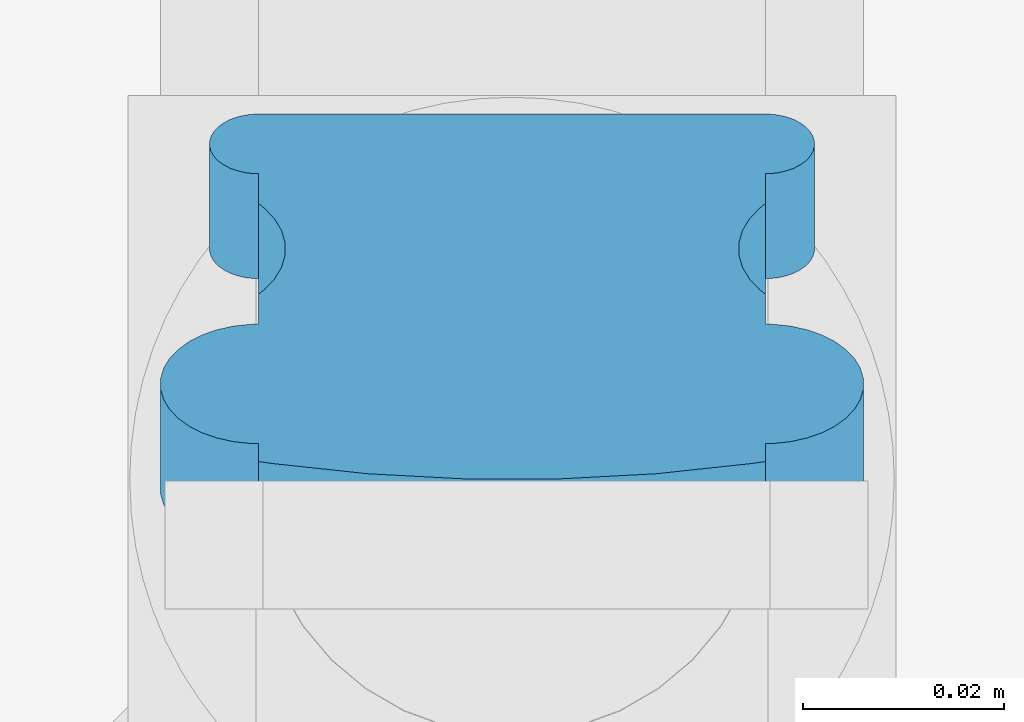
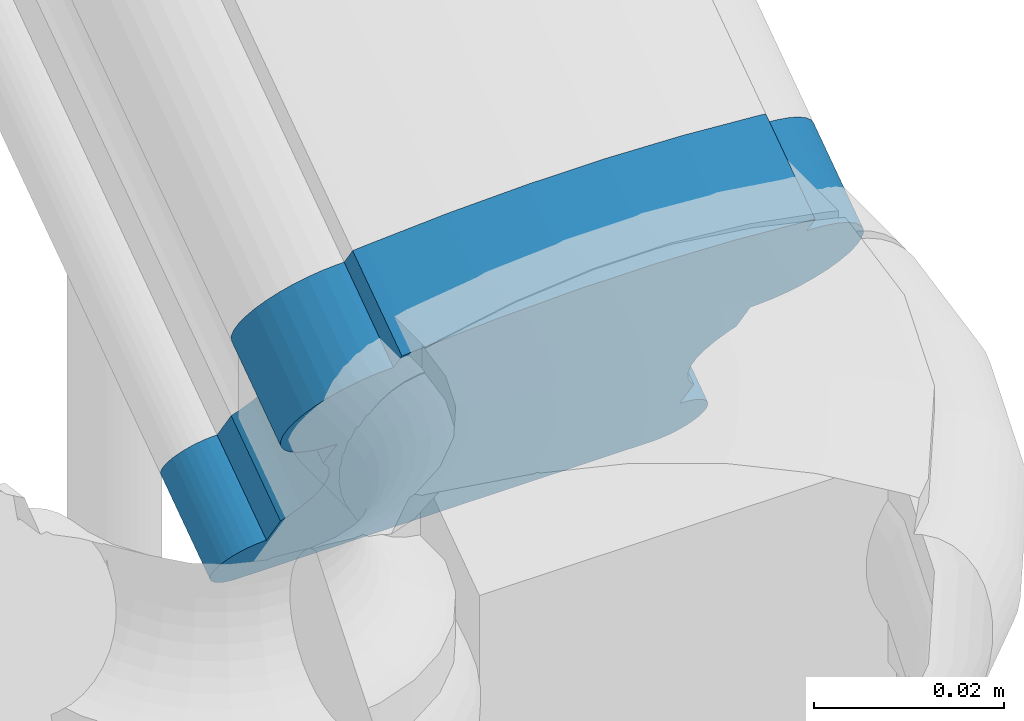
# One storey, part 20 of 77: 1 building element part, 1 element without a shape of its own.
"""IFC2X3 building model written with IfcOpenShell, lengths in inches."""

from ifc_helpers import new_model, entity, si_unit, converted_unit, derived_unit, money_unit, direction, frame, origin_with_axes, place, context, subcontext, project, spatial, faceted_brep, material, type_object, element, aggregate, save


model = new_model("IFC2X3")

# Units and contexts
model_context = context("Model", 3, precision=0.000393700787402, world=origin_with_axes(), true_north=direction((0.0, 1.0)))
body_context = subcontext(model_context, "Body", "Model", "MODEL_VIEW")
ifc_project = project(units=[converted_unit("LENGTHUNIT", "INCH", entity("IfcPositiveLengthMeasure", 0.0254), si_unit("LENGTHUNIT", "METRE"), dimensions=[1, 0, 0, 0, 0, 0, 0]), converted_unit("AREAUNIT", "SQUARE_FOOT", entity("IfcPositiveLengthMeasure", 0.09290304), si_unit("AREAUNIT", "SQUARE_METRE"), dimensions=[2, 0, 0, 0, 0, 0, 0]), si_unit("PLANEANGLEUNIT", "RADIAN"), si_unit("SOLIDANGLEUNIT", "STERADIAN"), money_unit("USD"), converted_unit("TIMEUNIT", "Year", entity("IfcTimeMeasure", 31556926.0), si_unit("TIMEUNIT", "SECOND"), dimensions=[0, 0, 1, 0, 0, 0, 0]), si_unit("MASSUNIT", "GRAM", prefix="KILO"), si_unit("THERMODYNAMICTEMPERATUREUNIT", "DEGREE_CELSIUS"), si_unit("LUMINOUSINTENSITYUNIT", "LUMEN"), si_unit("ENERGYUNIT", "JOULE", prefix="MEGA"), derived_unit("THERMALCONDUCTANCEUNIT", [(si_unit("POWERUNIT", "WATT"), 1), (si_unit("LENGTHUNIT", "METRE"), -1), (si_unit("THERMODYNAMICTEMPERATUREUNIT", "KELVIN"), -1)]), derived_unit("SPECIFICHEATCAPACITYUNIT", [(si_unit("ENERGYUNIT", "JOULE"), 1), (si_unit("MASSUNIT", "GRAM", prefix="KILO"), -1), (si_unit("THERMODYNAMICTEMPERATUREUNIT", "KELVIN"), -1)]), derived_unit("MASSDENSITYUNIT", [(si_unit("MASSUNIT", "GRAM", prefix="KILO"), 1), (si_unit("VOLUMEUNIT", "CUBIC_METRE"), -1)])], contexts=[model_context])

# Site, building, storey
site_placement = place(None, origin_with_axes())
site = spatial("IfcSite", under=ifc_project, at=site_placement, Name="Site", CompositionType="ELEMENT")
building_placement = place(site_placement, origin_with_axes())
building = spatial("IfcBuilding", under=site, at=building_placement, Name="Building", CompositionType="ELEMENT")
storey_placement = place(building_placement, frame((0.0, 0.0, 127.952755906), z_axis=(0.0, 0.0, 1.0), x_axis=(1.0, 0.0, 0.0)))
storey = spatial("IfcBuildingStorey", under=building, at=storey_placement, Name="Second Floor", CompositionType="ELEMENT", Elevation=127.953)

# Railing, building element part
railing_type = type_object("IfcRailingType", Name="Railing Type", PredefinedType="NOTDEFINED")
railing_placement = place(storey_placement, frame((682.459998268, 144.881628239, -56.1089279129), z_axis=(0.0, 0.0, 1.0), x_axis=(-1.0, 0.0, 0.0)))
railing = element("IfcRailing", 1, at=railing_placement, inside=storey, type_object=railing_type, Name="RAILING - 001", PredefinedType="NOTDEFINED")
ifc_material = material(Name="Wood - Structural")
building_element_part_placement = place(railing_placement, origin_with_axes())
building_element_part = element("IfcBuildingElementPart", 2, at=building_element_part_placement, material=ifc_material, Name="Wood - Structural", context=body_context, shape_type="Brep", body=[
    faceted_brep([(-0.978307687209, 71.9043657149, 39.8993498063), (-0.978307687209, 71.8342755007, 39.7986996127), (-0.978307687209, 72.2445891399, 39.5129677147), (-0.978307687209, 72.3146793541, 39.6136179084), (-1.03685591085, 71.9125070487, 39.9110408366), (-1.40666376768, 71.9520976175, 39.9678932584), (-1.78074756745, 71.9719685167, 39.9964280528), (-2.15626030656, 71.9719685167, 39.9964280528), (-2.53034410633, 71.9520976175, 39.9678932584), (-2.90015196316, 71.9125070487, 39.9110408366), (-2.9587001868, 71.9043657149, 39.8993498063), (-2.9587001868, 71.8342755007, 39.7986996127), (-2.99223804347, 71.8333864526, 39.7974229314), (-3.05829472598, 71.8263146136, 39.7872677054), (-3.12132527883, 71.8123858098, 39.7672658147), (-3.17941455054, 71.7920232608, 39.7380250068), (-3.230797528, 71.7658456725, 39.7004337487), (-3.27391296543, 71.7346484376, 39.6556342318), (-3.30745082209, 71.6993794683, 39.6049876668), (-3.33039206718, 71.6611103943, 39.5500329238), (-3.34203964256, 71.6210040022, 39.4924397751), (-3.34203964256, 71.5802789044, 39.4339581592), (-3.33039206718, 71.5401725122, 39.3763650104), (-3.30745082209, 71.5019034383, 39.3214102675), (-3.27391296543, 71.466634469, 39.2707637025), (-3.230797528, 71.435437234, 39.2259641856), (-3.17941455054, 71.4092596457, 39.1883729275), (-3.12132527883, 71.3888970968, 39.1591321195), (-3.05829472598, 71.374968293, 39.1391302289), (-2.99223804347, 71.367896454, 39.1289750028), (-2.9587001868, 71.3670074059, 39.1276983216), (-2.9587001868, 71.2501903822, 38.9599479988), (-2.93612331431, 71.2322202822, 38.9341427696), (-2.89633013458, 71.1903731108, 38.8740498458), (-2.86910999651, 71.1449662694, 38.808845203), (-2.85528997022, 71.0973794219, 38.7405100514), (-2.85528997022, 71.0490584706, 38.6711207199), (-2.86910999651, 71.0014716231, 38.6027855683), (-2.89633013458, 70.9560647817, 38.5375809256), (-2.93612331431, 70.9142176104, 38.4774880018), (-2.9587001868, 70.8962475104, 38.4516827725), (-2.9587001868, 70.7794304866, 38.2839324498), (-2.97546911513, 70.7789859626, 38.2832941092), (-3.00849745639, 70.7754500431, 38.2782164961), (-3.04001273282, 70.7684856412, 38.2682155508), (-3.06905736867, 70.7583043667, 38.2535951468), (-3.0947488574, 70.7452155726, 38.2347995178), (-3.11630657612, 70.7296169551, 38.2123997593), (-3.13307550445, 70.7119824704, 38.1870764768), (-3.14454612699, 70.6928479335, 38.1595991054), (-3.15036991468, 70.6727947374, 38.130802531), (-3.15036991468, 70.6524321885, 38.101561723), (-3.14454612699, 70.6323789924, 38.0727651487), (-3.13307550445, 70.6132444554, 38.0452877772), (-3.11630657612, 70.5956099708, 38.0199644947), (-3.0947488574, 70.5800113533, 37.9975647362), (-3.06905736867, 70.5669225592, 37.9787691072), (-3.04001273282, 70.5567412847, 37.9641487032), (-3.00849745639, 70.5497768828, 37.9541477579), (-2.97546911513, 70.5462409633, 37.9490701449), (-2.9587001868, 70.5457964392, 37.9484318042), (-0.978307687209, 70.5457964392, 37.9484318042), (-0.961538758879, 70.5462409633, 37.9490701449), (-0.92851041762, 70.5497768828, 37.9541477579), (-0.896995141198, 70.5567412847, 37.9641487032), (-0.867950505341, 70.5669225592, 37.9787691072), (-0.842259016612, 70.5800113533, 37.9975647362), (-0.820701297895, 70.5956099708, 38.0199644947), (-0.803932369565, 70.6132444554, 38.0452877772), (-0.792461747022, 70.6323789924, 38.0727651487), (-0.78663795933, 70.6524321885, 38.101561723), (-0.78663795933, 70.6727947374, 38.130802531), (-0.792461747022, 70.6928479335, 38.1595991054), (-0.803932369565, 70.7119824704, 38.1870764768), (-0.820701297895, 70.7296169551, 38.2123997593), (-0.842259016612, 70.7452155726, 38.2347995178), (-0.867950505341, 70.7583043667, 38.2535951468), (-0.896995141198, 70.7684856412, 38.2682155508), (-0.92851041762, 70.7754500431, 38.2782164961), (-0.961538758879, 70.7789859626, 38.2832941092), (-0.978307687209, 70.7794304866, 38.2839324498), (-0.978307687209, 70.8962475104, 38.4516827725), (-1.00088455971, 70.9142176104, 38.4774880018), (-1.04067773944, 70.9560647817, 38.5375809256), (-1.06789787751, 71.0014716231, 38.6027855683), (-1.08171790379, 71.0490584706, 38.6711207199), (-1.08171790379, 71.0973794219, 38.7405100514), (-1.06789787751, 71.1449662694, 38.808845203), (-1.04067773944, 71.1903731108, 38.8740498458), (-1.00088455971, 71.2322202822, 38.9341427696), (-0.978307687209, 71.2501903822, 38.9599479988), (-0.978307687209, 71.3670074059, 39.1276983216), (-0.944769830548, 71.367896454, 39.1289750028), (-0.87871314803, 71.374968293, 39.1391302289), (-0.815682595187, 71.3888970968, 39.1591321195), (-0.757593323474, 71.4092596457, 39.1883729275), (-0.706210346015, 71.435437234, 39.2259641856), (-0.663094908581, 71.466634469, 39.2707637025), (-0.62955705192, 71.5019034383, 39.3214102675), (-0.606615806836, 71.5401725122, 39.3763650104), (-0.594968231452, 71.5802789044, 39.4339581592), (-0.594968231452, 71.6210040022, 39.4924397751), (-0.606615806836, 71.6611103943, 39.5500329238), (-0.62955705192, 71.6993794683, 39.6049876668), (-0.663094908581, 71.7346484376, 39.6556342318), (-0.706210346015, 71.7658456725, 39.7004337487), (-0.757593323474, 71.7920232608, 39.7380250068), (-0.815682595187, 71.8123858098, 39.7672658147), (-0.87871314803, 71.8263146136, 39.7872677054), (-0.944769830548, 71.8333864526, 39.7974229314), (-0.944769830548, 72.2437000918, 39.5116910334), (-0.87871314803, 72.2366282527, 39.5015358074), (-0.815682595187, 72.2226994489, 39.4815339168), (-0.757593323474, 72.2023369, 39.4522931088), (-0.706210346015, 72.1761593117, 39.4147018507), (-0.663094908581, 72.1449620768, 39.3699023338), (-0.62955705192, 72.1096931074, 39.3192557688), (-0.606615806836, 72.0714240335, 39.2643010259), (-0.594968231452, 72.0313176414, 39.2067078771), (-0.594968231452, 71.9905925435, 39.1482262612), (-0.606615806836, 71.9504861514, 39.0906331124), (-0.62955705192, 71.9122170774, 39.0356783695), (-0.663094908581, 71.8769481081, 38.9850318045), (-0.706210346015, 71.8457508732, 38.9402322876), (-0.757593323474, 71.8195732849, 38.9026410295), (-0.815682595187, 71.799210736, 38.8734002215), (-0.87871314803, 71.7852819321, 38.8533983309), (-0.944769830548, 71.7782100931, 38.8432431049), (-0.978307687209, 71.777321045, 38.8419664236), (-0.978307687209, 71.6605040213, 38.6742161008), (-1.00088455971, 71.6425339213, 38.6484108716), (-1.04067773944, 71.6006867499, 38.5883179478), (-1.06789787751, 71.5552799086, 38.523113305), (-1.08171790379, 71.5076930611, 38.4547781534), (-1.08171790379, 71.4593721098, 38.385388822), (-1.06789787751, 71.4117852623, 38.3170536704), (-1.04067773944, 71.3663784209, 38.2518490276), (-1.00088455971, 71.3245312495, 38.1917561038), (-0.978307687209, 71.3065611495, 38.1659508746), (-0.978307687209, 71.1897441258, 37.9982005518), (-0.961538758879, 71.1892996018, 37.9975622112), (-0.928510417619, 71.1857636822, 37.9924845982), (-0.896995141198, 71.1787992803, 37.9824836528), (-0.867950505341, 71.1686180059, 37.9678632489), (-0.842259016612, 71.1555292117, 37.9490676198), (-0.820701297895, 71.1399305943, 37.9266678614), (-0.803932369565, 71.1222961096, 37.9013445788), (-0.792461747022, 71.1031615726, 37.8738672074), (-0.78663795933, 71.0831083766, 37.845070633), (-0.78663795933, 71.0627458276, 37.815829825), (-0.792461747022, 71.0426926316, 37.7870332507), (-0.803932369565, 71.0235580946, 37.7595558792), (-0.820701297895, 71.0059236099, 37.7342325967), (-0.842259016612, 70.9903249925, 37.7118328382), (-0.867950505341, 70.9772361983, 37.6930372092), (-0.896995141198, 70.9670549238, 37.6784168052), (-0.92851041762, 70.9600905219, 37.6684158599), (-0.961538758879, 70.9565546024, 37.6633382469), (-0.978307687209, 70.9561100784, 37.6626999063), (-2.9587001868, 70.9561100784, 37.6626999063), (-2.97546911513, 70.9565546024, 37.6633382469), (-3.00849745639, 70.9600905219, 37.6684158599), (-3.04001273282, 70.9670549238, 37.6784168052), (-3.06905736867, 70.9772361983, 37.6930372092), (-3.0947488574, 70.9903249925, 37.7118328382), (-3.11630657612, 71.0059236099, 37.7342325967), (-3.13307550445, 71.0235580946, 37.7595558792), (-3.14454612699, 71.0426926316, 37.7870332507), (-3.15036991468, 71.0627458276, 37.815829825), (-3.15036991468, 71.0831083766, 37.845070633), (-3.14454612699, 71.1031615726, 37.8738672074), (-3.13307550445, 71.1222961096, 37.9013445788), (-3.11630657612, 71.1399305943, 37.9266678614), (-3.0947488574, 71.1555292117, 37.9490676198), (-3.06905736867, 71.1686180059, 37.9678632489), (-3.04001273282, 71.1787992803, 37.9824836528), (-3.00849745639, 71.1857636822, 37.9924845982), (-2.97546911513, 71.1892996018, 37.9975622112), (-2.9587001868, 71.1897441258, 37.9982005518), (-2.9587001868, 71.3065611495, 38.1659508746), (-2.93612331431, 71.3245312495, 38.1917561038), (-2.89633013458, 71.3663784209, 38.2518490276), (-2.86910999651, 71.4117852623, 38.3170536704), (-2.85528997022, 71.4593721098, 38.385388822), (-2.85528997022, 71.5076930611, 38.4547781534), (-2.86910999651, 71.5552799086, 38.523113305), (-2.89633013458, 71.6006867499, 38.5883179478), (-2.93612331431, 71.6425339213, 38.6484108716), (-2.9587001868, 71.6605040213, 38.6742161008), (-2.9587001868, 71.777321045, 38.8419664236), (-2.99223804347, 71.7782100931, 38.8432431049), (-3.05829472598, 71.7852819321, 38.8533983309), (-3.12132527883, 71.799210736, 38.8734002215), (-3.17941455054, 71.8195732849, 38.9026410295), (-3.230797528, 71.8457508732, 38.9402322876), (-3.27391296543, 71.8769481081, 38.9850318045), (-3.30745082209, 71.9122170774, 39.0356783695), (-3.33039206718, 71.9504861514, 39.0906331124), (-3.34203964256, 71.9905925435, 39.1482262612), (-3.34203964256, 72.0313176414, 39.2067078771), (-3.33039206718, 72.0714240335, 39.2643010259), (-3.30745082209, 72.1096931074, 39.3192557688), (-3.27391296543, 72.1449620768, 39.3699023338), (-3.230797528, 72.1761593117, 39.4147018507), (-3.17941455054, 72.2023369, 39.4522931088), (-3.12132527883, 72.2226994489, 39.4815339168), (-3.05829472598, 72.2366282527, 39.5015358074), (-2.99223804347, 72.2437000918, 39.5116910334), (-2.9587001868, 72.2445891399, 39.5129677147), (-2.9587001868, 72.3146793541, 39.6136179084), (-2.90015196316, 72.3228206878, 39.6253089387), (-2.53034410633, 72.3624112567, 39.6821613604), (-2.15626030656, 72.3822821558, 39.7106961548), (-1.78074756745, 72.3822821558, 39.7106961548), (-1.40666376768, 72.3624112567, 39.6821613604), (-1.03685591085, 72.3228206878, 39.6253089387)], [[[0, 1, 2, 3]], [[0, 4, 5, 6, 7, 8, 9, 10, 11, 12, 13, 14, 15, 16, 17, 18, 19, 20, 21, 22, 23, 24, 25, 26, 27, 28, 29, 30, 31, 32, 33, 34, 35, 36, 37, 38, 39, 40, 41, 42, 43, 44, 45, 46, 47, 48, 49, 50, 51, 52, 53, 54, 55, 56, 57, 58, 59, 60, 61, 62, 63, 64, 65, 66, 67, 68, 69, 70, 71, 72, 73, 74, 75, 76, 77, 78, 79, 80, 81, 82, 83, 84, 85, 86, 87, 88, 89, 90, 91, 92, 93, 94, 95, 96, 97, 98, 99, 100, 101, 102, 103, 104, 105, 106, 107, 108, 109, 1]], [[1, 109, 110, 2]], [[3, 2, 110, 111, 112, 113, 114, 115, 116, 117, 118, 119, 120, 121, 122, 123, 124, 125, 126, 127, 128, 129, 130, 131, 132, 133, 134, 135, 136, 137, 138, 139, 140, 141, 142, 143, 144, 145, 146, 147, 148, 149, 150, 151, 152, 153, 154, 155, 156, 157, 158, 159, 160, 161, 162, 163, 164, 165, 166, 167, 168, 169, 170, 171, 172, 173, 174, 175, 176, 177, 178, 179, 180, 181, 182, 183, 184, 185, 186, 187, 188, 189, 190, 191, 192, 193, 194, 195, 196, 197, 198, 199, 200, 201, 202, 203, 204, 205, 206, 207, 208, 209, 210, 211, 212, 213, 214, 215]], [[4, 0, 3, 215]], [[5, 4, 215, 214]], [[6, 5, 214, 213]], [[7, 6, 213, 212]], [[8, 7, 212, 211]], [[9, 8, 211, 210]], [[10, 9, 210, 209]], [[11, 10, 209, 208]], [[12, 11, 208, 207]], [[13, 12, 207, 206]], [[14, 13, 206, 205]], [[15, 14, 205, 204]], [[16, 15, 204, 203]], [[17, 16, 203, 202]], [[18, 17, 202, 201]], [[19, 18, 201, 200]], [[20, 19, 200, 199]], [[21, 20, 199, 198]], [[22, 21, 198, 197]], [[23, 22, 197, 196]], [[24, 23, 196, 195]], [[25, 24, 195, 194]], [[26, 25, 194, 193]], [[27, 26, 193, 192]], [[28, 27, 192, 191]], [[29, 28, 191, 190]], [[30, 29, 190, 189]], [[31, 30, 189, 188]], [[32, 31, 188, 187]], [[33, 32, 187, 186]], [[34, 33, 186, 185]], [[35, 34, 185, 184]], [[36, 35, 184, 183]], [[37, 36, 183, 182]], [[38, 37, 182, 181]], [[39, 38, 181, 180]], [[40, 39, 180, 179]], [[41, 40, 179, 178]], [[42, 41, 178, 177]], [[43, 42, 177, 176]], [[44, 43, 176, 175]], [[45, 44, 175, 174]], [[46, 45, 174, 173]], [[47, 46, 173, 172]], [[48, 47, 172, 171]], [[49, 48, 171, 170]], [[50, 49, 170, 169]], [[51, 50, 169, 168]], [[52, 51, 168, 167]], [[53, 52, 167, 166]], [[54, 53, 166, 165]], [[55, 54, 165, 164]], [[56, 55, 164, 163]], [[57, 56, 163, 162]], [[58, 57, 162, 161]], [[59, 58, 161, 160]], [[60, 59, 160, 159]], [[61, 60, 159, 158]], [[62, 61, 158, 157]], [[63, 62, 157, 156]], [[64, 63, 156, 155]], [[65, 64, 155, 154]], [[66, 65, 154, 153]], [[67, 66, 153, 152]], [[68, 67, 152, 151]], [[69, 68, 151, 150]], [[70, 69, 150, 149]], [[71, 70, 149, 148]], [[72, 71, 148, 147]], [[73, 72, 147, 146]], [[74, 73, 146, 145]], [[75, 74, 145, 144]], [[76, 75, 144, 143]], [[77, 76, 143, 142]], [[78, 77, 142, 141]], [[79, 78, 141, 140]], [[80, 79, 140, 139]], [[81, 80, 139, 138]], [[82, 81, 138, 137]], [[83, 82, 137, 136]], [[84, 83, 136, 135]], [[85, 84, 135, 134]], [[86, 85, 134, 133]], [[87, 86, 133, 132]], [[88, 87, 132, 131]], [[89, 88, 131, 130]], [[90, 89, 130, 129]], [[91, 90, 129, 128]], [[92, 91, 128, 127]], [[93, 92, 127, 126]], [[94, 93, 126, 125]], [[95, 94, 125, 124]], [[96, 95, 124, 123]], [[97, 96, 123, 122]], [[98, 97, 122, 121]], [[99, 98, 121, 120]], [[100, 99, 120, 119]], [[101, 100, 119, 118]], [[102, 101, 118, 117]], [[103, 102, 117, 116]], [[104, 103, 116, 115]], [[105, 104, 115, 114]], [[106, 105, 114, 113]], [[107, 106, 113, 112]], [[108, 107, 112, 111]], [[109, 108, 111, 110]]]),
])
aggregate(railing, [building_element_part])

save(model, "model.ifc")
